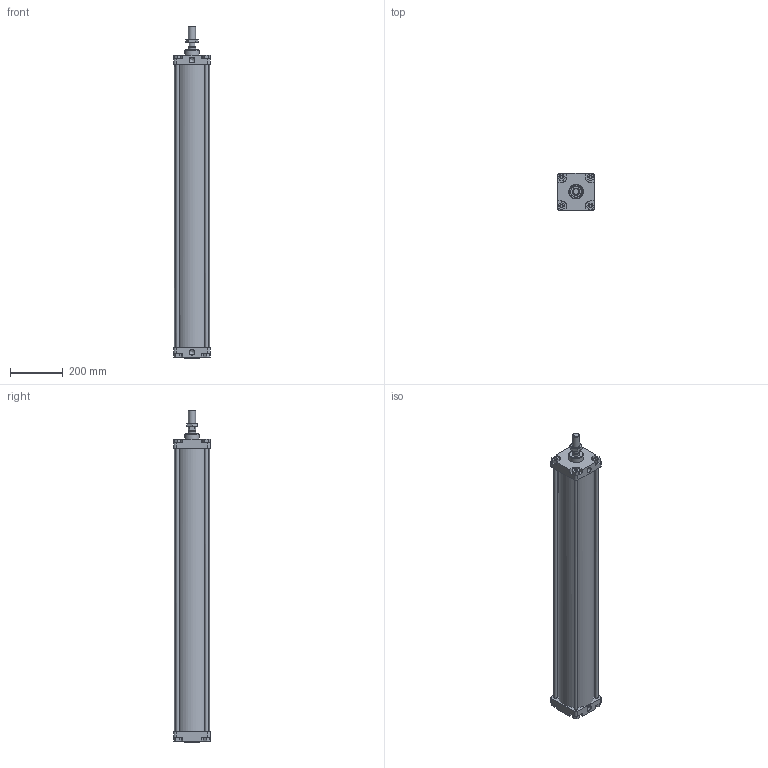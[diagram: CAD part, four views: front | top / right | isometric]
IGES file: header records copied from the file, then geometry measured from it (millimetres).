
Global section: file name: 1303_125_1000_01A; native system: Autodesk Inventor 2014; preprocessor: unknown; author: A. Manieri; date: 20161124.141656; units: millimetre
Bounding box: 140 x 140 x 1258 mm (x, y, z)
Volume: 5236746.2 mm3; surface area: 1347279.9 mm2
Topology: 9 solids, 9 shells, 175 faces, 440 edges, 295 vertices
Faces by surface type: bspline 175
